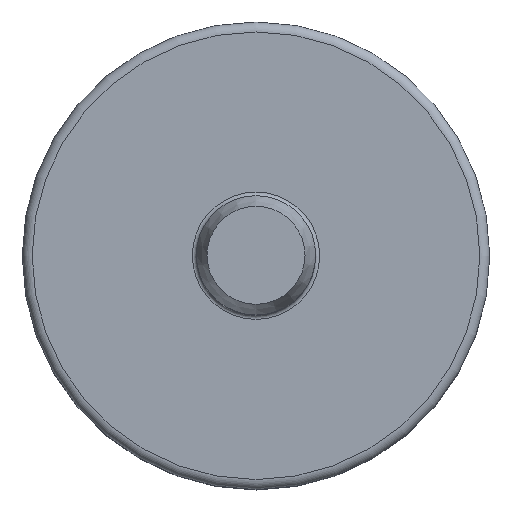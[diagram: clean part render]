
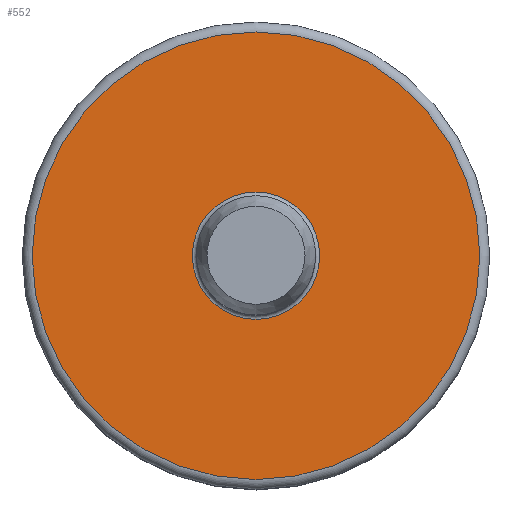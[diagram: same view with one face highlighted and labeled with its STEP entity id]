
A CAD part, top view. The second image highlights one B-rep face of the part: STEP entity #552.
In plain terms, the highlighted planar face has unit normal (0, 0, 1).
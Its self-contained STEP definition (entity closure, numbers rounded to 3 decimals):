
#70=PLANE('',#616);
#82=FACE_BOUND('',#180,.T.);
#134=FACE_OUTER_BOUND('',#179,.T.);
#179=EDGE_LOOP('',(#452));
#180=EDGE_LOOP('',(#453));
#242=CIRCLE('',#617,22.5);
#243=CIRCLE('',#618,6.4);
#291=VERTEX_POINT('',#931);
#292=VERTEX_POINT('',#933);
#352=EDGE_CURVE('',#291,#291,#242,.T.);
#353=EDGE_CURVE('',#292,#292,#243,.T.);
#452=ORIENTED_EDGE('',*,*,#352,.T.);
#453=ORIENTED_EDGE('',*,*,#353,.F.);
#552=ADVANCED_FACE('',(#134,#82),#70,.T.);
#616=AXIS2_PLACEMENT_3D('',#930,#759,#760);
#617=AXIS2_PLACEMENT_3D('',#932,#761,#762);
#618=AXIS2_PLACEMENT_3D('',#934,#763,#764);
#759=DIRECTION('center_axis',(0.,0.,1.));
#760=DIRECTION('ref_axis',(1.,0.,0.));
#761=DIRECTION('center_axis',(0.,0.,1.));
#762=DIRECTION('ref_axis',(0.,-1.,0.));
#763=DIRECTION('center_axis',(0.,0.,1.));
#764=DIRECTION('ref_axis',(0.,-1.,0.));
#930=CARTESIAN_POINT('Origin',(0.,-3.2,0.));
#931=CARTESIAN_POINT('',(0.,-22.5,0.));
#932=CARTESIAN_POINT('Origin',(0.,0.,0.));
#933=CARTESIAN_POINT('',(0.,-6.4,0.));
#934=CARTESIAN_POINT('Origin',(0.,0.,0.));
